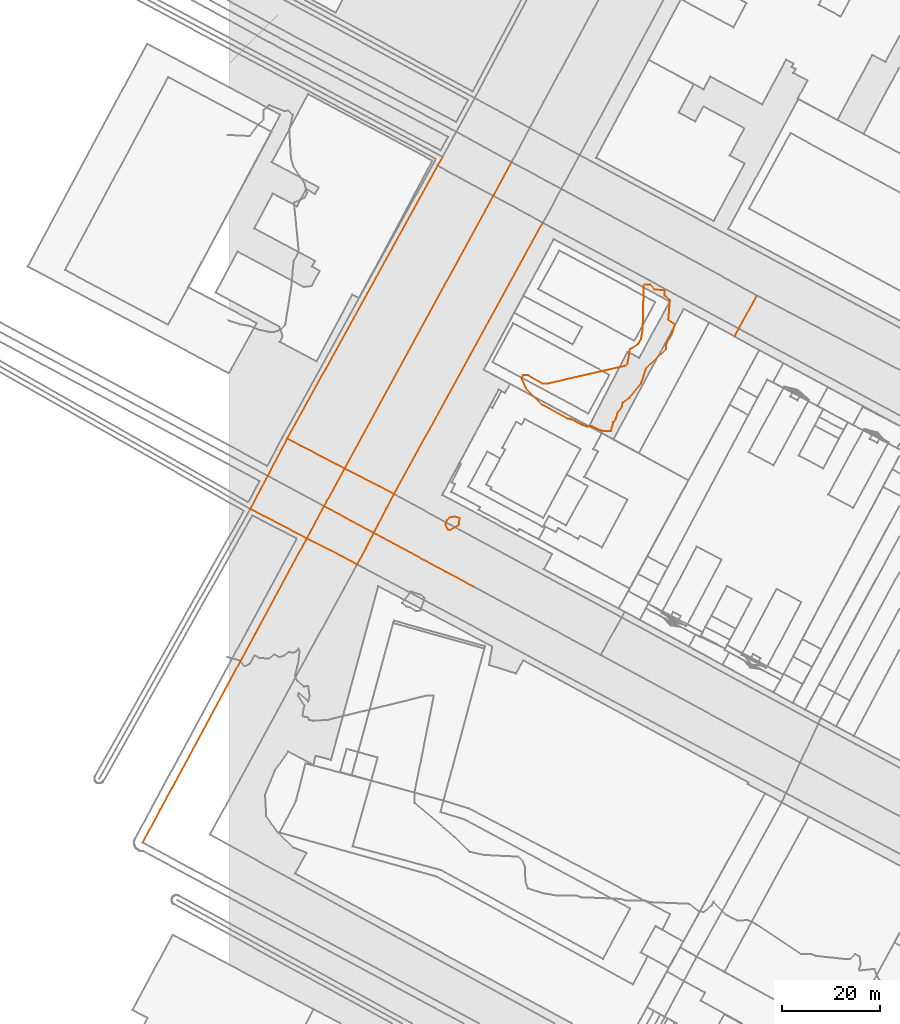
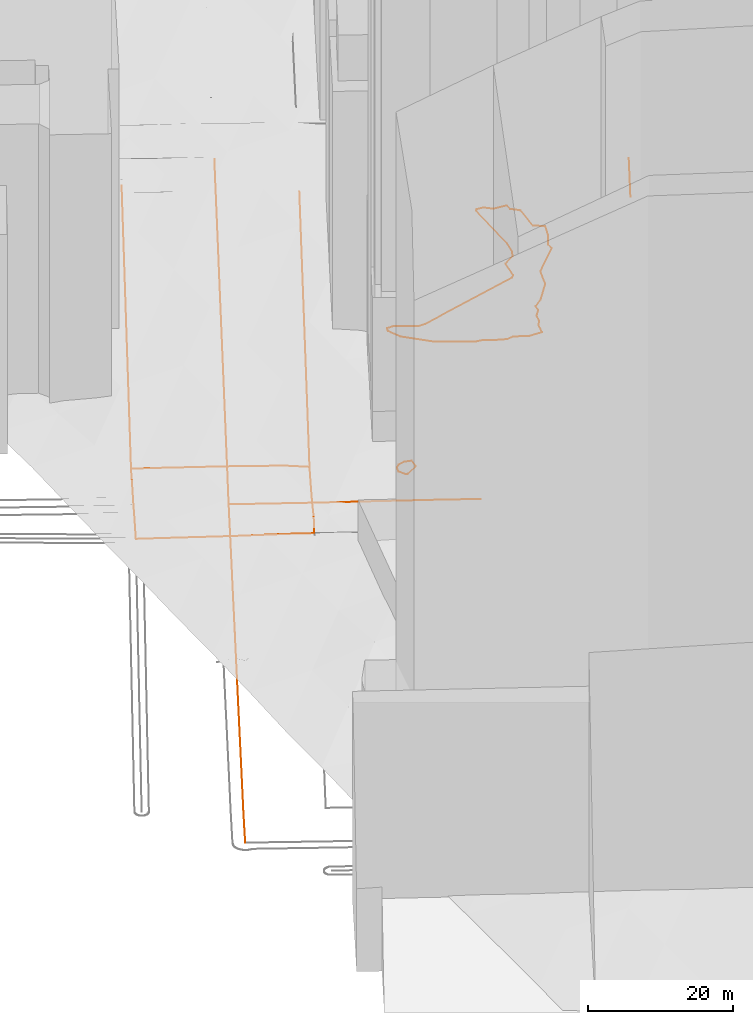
# Not in any storey, part 55 of 76: 11 proxies.
"""IFC2X3 model written with IfcOpenShell, lengths in metres."""

from ifc_helpers import new_model, entity, si_unit, frame, origin_with_axes, place, context, subcontext, project, element, save


model = new_model("IFC2X3")

# Units and contexts
model_context = context("Model", 3, precision=1e-05, world=origin_with_axes())
body_context = subcontext(model_context, "Body", "Model", "MODEL_VIEW")
ifc_project = project(units=[si_unit("AREAUNIT", "SQUARE_METRE"), si_unit("LENGTHUNIT", "METRE")], contexts=[model_context])

# Proxies
proxy_1_placement = place(None, frame((103.4986312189, 183.6113298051, 22.1721413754), z_axis=(0.0, 0.0, 1.0), x_axis=(1.0, 0.0, 0.0)))
element("IfcBuildingElementProxy", 1, at=proxy_1_placement, Name="Route 70", ObjectType="NOTDEFINED", context=body_context, shape_type="GeometricCurveSet", body=[
    entity("IfcGeometricCurveSet", [entity("IfcPolyline", [entity("IfcCartesianPoint", [4.5871852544, 8.424378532, -0.0134747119]), entity("IfcCartesianPoint", [0.8761128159, 1.6089001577, 0.0185078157]), entity("IfcCartesianPoint", [0.0, 0.0, 0.0])])]),
])
proxy_2_placement = place(None, frame((11.8640454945, 162.6856584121, 21.1440333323), z_axis=(0.0, 0.0, 1.0), x_axis=(1.0, 0.0, 0.0)))
element("IfcBuildingElementProxy", 2, at=proxy_2_placement, Name="Route 103", ObjectType="NOTDEFINED", context=body_context, shape_type="GeometricCurveSet", body=[
    entity("IfcGeometricCurveSet", [entity("IfcPolyline", [entity("IfcCartesianPoint", [31.8214660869, 57.7234919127, 1.7070171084]), entity("IfcCartesianPoint", [30.8293704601, 55.9245146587, 1.6403440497]), entity("IfcCartesianPoint", [0.0, 0.0, 0.0])])]),
])
proxy_3_placement = place(None, frame((33.7329413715, 151.3153674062, 20.6846759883), z_axis=(0.0, 0.0, 1.0), x_axis=(1.0, 0.0, 0.0)))
element("IfcBuildingElementProxy", 3, at=proxy_3_placement, Name="Route 104", ObjectType="NOTDEFINED", context=body_context, shape_type="GeometricCurveSet", body=[
    entity("IfcGeometricCurveSet", [entity("IfcPolyline", [entity("IfcCartesianPoint", [30.470061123, 55.598471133, 2.1190828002]), entity("IfcCartesianPoint", [0.0, 0.0, 0.0])])]),
])
proxy_4_placement = place(None, frame((19.4194815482, 148.8400023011, 20.8964026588), z_axis=(0.0, 0.0, 1.0), x_axis=(1.0, 0.0, 0.0)))
element("IfcBuildingElementProxy", 4, at=proxy_4_placement, Name="Route 107", ObjectType="NOTDEFINED", context=body_context, shape_type="GeometricCurveSet", body=[
    entity("IfcGeometricCurveSet", [entity("IfcPolyline", [entity("IfcCartesianPoint", [30.6654746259, -16.497328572, 0.172092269]), entity("IfcCartesianPoint", [25.033523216, -13.4651714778, 0.1630108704]), entity("IfcCartesianPoint", [10.1510862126, -5.4666374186, 0.0269875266]), entity("IfcCartesianPoint", [0.0, 0.0, 0.0])])]),
])
proxy_5_placement = place(None, frame((26.1761408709, 136.9057730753, 20.8976590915), z_axis=(0.0, 0.0, 1.0), x_axis=(1.0, 0.0, 0.0)))
element("IfcBuildingElementProxy", 5, at=proxy_5_placement, Name="Route 108", ObjectType="NOTDEFINED", context=body_context, shape_type="GeometricCurveSet", body=[
    entity("IfcGeometricCurveSet", [entity("IfcPolyline", [entity("IfcCartesianPoint", [7.5568005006, 14.4095943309, -0.2129831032]), entity("IfcCartesianPoint", [6.0618083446, 11.5722737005, -0.2060167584]), entity("IfcCartesianPoint", [3.39442689, 6.4675918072, 0.0257310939]), entity("IfcCartesianPoint", [1.8601921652, 3.3744650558, 0.0338050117]), entity("IfcCartesianPoint", [0.0, 0.0, 0.0])])]),
])
proxy_6_placement = place(None, frame((-17.7426653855, 79.9080372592, 18.7209006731), z_axis=(0.0, 0.0, 1.0), x_axis=(1.0, 0.0, 0.0)))
element("IfcBuildingElementProxy", 6, at=proxy_6_placement, Name="Route 109", ObjectType="NOTDEFINED", context=body_context, shape_type="GeometricCurveSet", body=[
    entity("IfcGeometricCurveSet", [entity("IfcPolyline", [entity("IfcCartesianPoint", [75.5718486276, 139.4107359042, 4.3126888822]), entity("IfcCartesianPoint", [71.8110052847, 132.516989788, 4.1260236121]), entity("IfcCartesianPoint", [41.3777466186, 76.6525343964, 2.4123696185]), entity("IfcCartesianPoint", [37.1621469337, 68.9319650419, 2.1755019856]), entity("IfcCartesianPoint", [33.6170744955, 62.3516076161, 2.0493660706]), entity("IfcCartesianPoint", [23.0390984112, 42.7666424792, 1.3590600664]), entity("IfcCartesianPoint", [6.0235864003, 11.2387228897, 0.3403631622]), entity("IfcCartesianPoint", [3.6186518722, 6.7921351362, 0.2037622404]), entity("IfcCartesianPoint", [0.0, 0.0, 0.0])])]),
])
proxy_7_placement = place(None, frame((11.8640454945, 162.6856584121, 21.1440333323), z_axis=(0.0, 0.0, 1.0), x_axis=(1.0, 0.0, 0.0)))
element("IfcBuildingElementProxy", 7, at=proxy_7_placement, Name="Route 110", ObjectType="NOTDEFINED", context=body_context, shape_type="GeometricCurveSet", body=[
    entity("IfcGeometricCurveSet", [entity("IfcPolyline", [entity("IfcCartesianPoint", [0.0, 0.0, 0.0]), entity("IfcCartesianPoint", [2.8281677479, -1.4770917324, 0.0259270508]), entity("IfcCartesianPoint", [11.7710357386, -6.1250867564, -0.0107630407]), entity("IfcCartesianPoint", [18.844658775, -9.7289479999, -0.1821409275]), entity("IfcCartesianPoint", [21.868895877, -11.3702910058, -0.459357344])])]),
])
proxy_8_placement = place(None, frame((4.3072155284, 148.276086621, 20.7092420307), z_axis=(0.0, 0.0, 1.0), x_axis=(1.0, 0.0, 0.0)))
element("IfcBuildingElementProxy", 8, at=proxy_8_placement, Name="Route 111", ObjectType="NOTDEFINED", context=body_context, shape_type="GeometricCurveSet", body=[
    entity("IfcGeometricCurveSet", [entity("IfcPolyline", [entity("IfcCartesianPoint", [0.0, 0.0, 0.0]), entity("IfcCartesianPoint", [2.0815217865, 3.9432417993, 0.1284079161]), entity("IfcCartesianPoint", [3.5512016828, 6.780263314, 0.2180049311]), entity("IfcCartesianPoint", [6.2520973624, 11.9075305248, 0.3724488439]), entity("IfcCartesianPoint", [7.556829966, 14.4095717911, 0.4347913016])])]),
])
proxy_9_placement = place(None, frame((4.3072155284, 148.276086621, 20.7092420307), z_axis=(0.0, 0.0, 1.0), x_axis=(1.0, 0.0, 0.0)))
element("IfcBuildingElementProxy", 9, at=proxy_9_placement, Name="Route 112", ObjectType="NOTDEFINED", context=body_context, shape_type="GeometricCurveSet", body=[
    entity("IfcGeometricCurveSet", [entity("IfcPolyline", [entity("IfcCartesianPoint", [21.8689253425, -11.3703135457, 0.1884170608]), entity("IfcCartesianPoint", [18.750937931, -9.6523395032, 0.1321283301]), entity("IfcCartesianPoint", [11.5671935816, -6.0164417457, 0.0610247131]), entity("IfcCartesianPoint", [2.7176734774, -1.4117631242, 0.0226509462]), entity("IfcCartesianPoint", [0.0, 0.0, 0.0])])]),
])
proxy_10_placement = place(None, frame((59.9189279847, 175.0447113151, 20.0), z_axis=(0.0, 0.0, 1.0), x_axis=(1.0, 0.0, 0.0)))
element("IfcBuildingElementProxy", 10, at=proxy_10_placement, Name="Contour 20.0 m", ObjectType="NOTDEFINED", context=body_context, shape_type="GeometricCurveSet", body=[
    entity("IfcGeometricCurveSet", [entity("IfcPolyline", [entity("IfcCartesianPoint", [18.2725747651, -10.8330579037, 0.0]), entity("IfcCartesianPoint", [18.7726360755, -9.0, 0.0]), entity("IfcCartesianPoint", [19.2725747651, -8.3636363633, 0.0]), entity("IfcCartesianPoint", [19.6475844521, -7.0, 0.0]), entity("IfcCartesianPoint", [20.4648119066, -6.0, 0.0]), entity("IfcCartesianPoint", [20.6725251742, -5.0, 0.0]), entity("IfcCartesianPoint", [21.9868137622, -4.0, 0.0]), entity("IfcCartesianPoint", [24.4899458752, -1.0, 0.0]), entity("IfcCartesianPoint", [25.4393403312, 2.0, 0.0]), entity("IfcCartesianPoint", [29.5452791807, 6.0, 0.0]), entity("IfcCartesianPoint", [29.5926730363, 7.0, 0.0]), entity("IfcCartesianPoint", [30.7170443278, 9.0, 0.0]), entity("IfcCartesianPoint", [31.4105629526, 11.0, 0.0]), entity("IfcCartesianPoint", [30.0227876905, 12.0, 0.0]), entity("IfcCartesianPoint", [30.3762392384, 16.0, 0.0]), entity("IfcCartesianPoint", [29.2940883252, 17.0, 0.0]), entity("IfcCartesianPoint", [29.2725747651, 18.0105322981, 0.0]), entity("IfcCartesianPoint", [27.2725747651, 18.2174573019, 0.0]), entity("IfcCartesianPoint", [26.2725747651, 19.1778091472, 0.0]), entity("IfcCartesianPoint", [25.2725747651, 19.2618556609, 0.0]), entity("IfcCartesianPoint", [24.9977013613, 19.0, 0.0]), entity("IfcCartesianPoint", [24.7934783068, 10.0, 0.0]), entity("IfcCartesianPoint", [24.4154912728, 8.0, 0.0]), entity("IfcCartesianPoint", [23.8879503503, 7.0, 0.0]), entity("IfcCartesianPoint", [22.1817681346, 6.0, 0.0]), entity("IfcCartesianPoint", [21.67259384, 3.0, 0.0]), entity("IfcCartesianPoint", [21.2725747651, 2.60003433, 0.0]), entity("IfcCartesianPoint", [5.2725747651, -1.0713166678, 0.0]), entity("IfcCartesianPoint", [4.2725747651, -1.0950477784, 0.0]), entity("IfcCartesianPoint", [1.2725747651, 0.631689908, 0.0]), entity("IfcCartesianPoint", [0.2725747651, 0.7057555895, 0.0]), entity("IfcCartesianPoint", [0.0, 0.0, 0.0]), entity("IfcCartesianPoint", [0.8517947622, -2.0, 0.0]), entity("IfcCartesianPoint", [4.2725747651, -5.4373114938, 0.0]), entity("IfcCartesianPoint", [9.2725747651, -8.2103440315, 0.0]), entity("IfcCartesianPoint", [10.2725747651, -8.4209131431, 0.0]), entity("IfcCartesianPoint", [12.2725747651, -9.499819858, 0.0]), entity("IfcCartesianPoint", [13.2725747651, -9.8821721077, 0.0]), entity("IfcCartesianPoint", [14.2725747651, -9.7499374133, 0.0]), entity("IfcCartesianPoint", [16.2725747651, -10.7366978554, 0.0]), entity("IfcCartesianPoint", [18.2725747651, -10.8330579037, 0.0])])]),
])
proxy_11_placement = place(None, frame((44.2785664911, 145.0447113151, 20.0), z_axis=(0.0, 0.0, 1.0), x_axis=(1.0, 0.0, 0.0)))
element("IfcBuildingElementProxy", 11, at=proxy_11_placement, Name="Contour 20.0 m", ObjectType="NOTDEFINED", context=body_context, shape_type="GeometricCurveSet", body=[
    entity("IfcGeometricCurveSet", [entity("IfcPolyline", [entity("IfcCartesianPoint", [0.9129362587, -1.1130456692, 0.0]), entity("IfcCartesianPoint", [2.7590858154, 0.0, 0.0]), entity("IfcCartesianPoint", [2.9129362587, 1.367410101, 0.0]), entity("IfcCartesianPoint", [1.9129362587, 1.6836106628, 0.0]), entity("IfcCartesianPoint", [0.9129362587, 1.5000074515, 0.0]), entity("IfcCartesianPoint", [0.3311799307, 1.0, 0.0]), entity("IfcCartesianPoint", [0.0, 0.0, 0.0]), entity("IfcCartesianPoint", [0.5606139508, -1.0, 0.0]), entity("IfcCartesianPoint", [0.9129362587, -1.1130456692, 0.0])])]),
])

save(model, "model.ifc")
